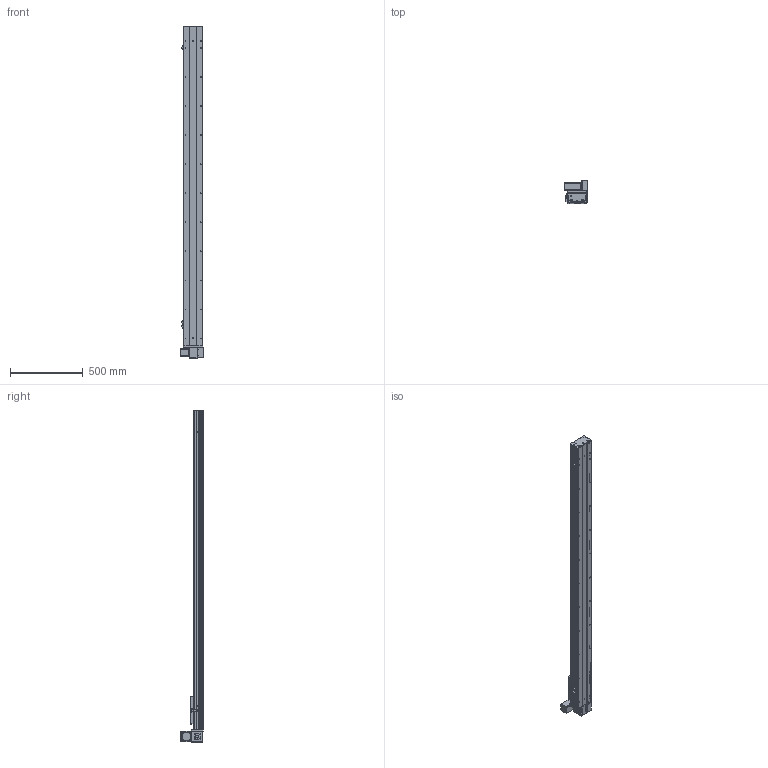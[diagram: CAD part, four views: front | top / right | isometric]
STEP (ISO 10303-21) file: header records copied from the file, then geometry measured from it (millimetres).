
FILE_DESCRIPTION (( 'STEP AP203' ), '1' );
FILE_NAME ('Y135CB-D90-S1900-UL-P400W.STEP', '2020-02-18T07:48:03', ( '微软用户' ), ( '微软中国' ), 'SwSTEP 2.0', 'SolidWorks 2017', '' );
FILE_SCHEMA (( 'CONFIG_CONTROL_DESIGN' ));
Length unit declared in the file: millimetre
Products named in the file (18): Y100-135俋离換覜ん--; 35CB---喘謫眊楊擘啣; Y135C-陔俋离換覜結え-; 0B-埴倛裔啣; 5C--俋欶; 0B-源倛裔啣; C-雄赽釱--; 0B-萇儂楊擘啣; Y10B-耜蚾蟀諉啣----; san松下电机400不带刹车----; 00B-俋欶BM--; 5CB --掛极耜裔啣-; Y10B--々湍喘謫眊--666; C-詩湍揤踡え-陔; Y135CB-耜裔; Y135CB-D90-S1900-UL-P400W; 135CB--詩湍-CE; 135CB---遴掛极.-
Assembly tree (21 placements, depth 2):
  Y135CB-D90-S1900-UL-P400W
    Y135CB-耜裔
    135CB---遴掛极.-
    35CB---喘謫眊楊擘啣
    0B-埴倛裔啣
    0B-源倛裔啣
    0B-萇儂楊擘啣
    san松下电机400不带刹车----
    5CB --掛极耜裔啣-  x2
    C-詩湍揤踡え-陔  x2
    135CB--詩湍-CE
    Y100-135俋离換覜ん--  x3
    Y135C-陔俋离換覜結え-
    5C--俋欶
    C-雄赽釱--
    Y10B-耜蚾蟀諉啣----
    00B-俋欶BM--
    Y10B--々湍喘謫眊--666
Bounding box: 157 x 158.7 x 2288 mm (x, y, z)
Volume: 6723558.9 mm3; surface area: 2654541.8 mm2
Topology: 21 solids, 21 shells, 965 faces, 2617 edges, 1734 vertices
Faces by surface type: cylinder 493, plane 456, cone 16
Entity records: 30359 total; most frequent: DIRECTION 5045, CARTESIAN_POINT 5032, ORIENTED_EDGE 4710, EDGE_CURVE 2355, AXIS2_PLACEMENT_3D 1847, VERTEX_POINT 1562, VECTOR 1351, LINE 1351
